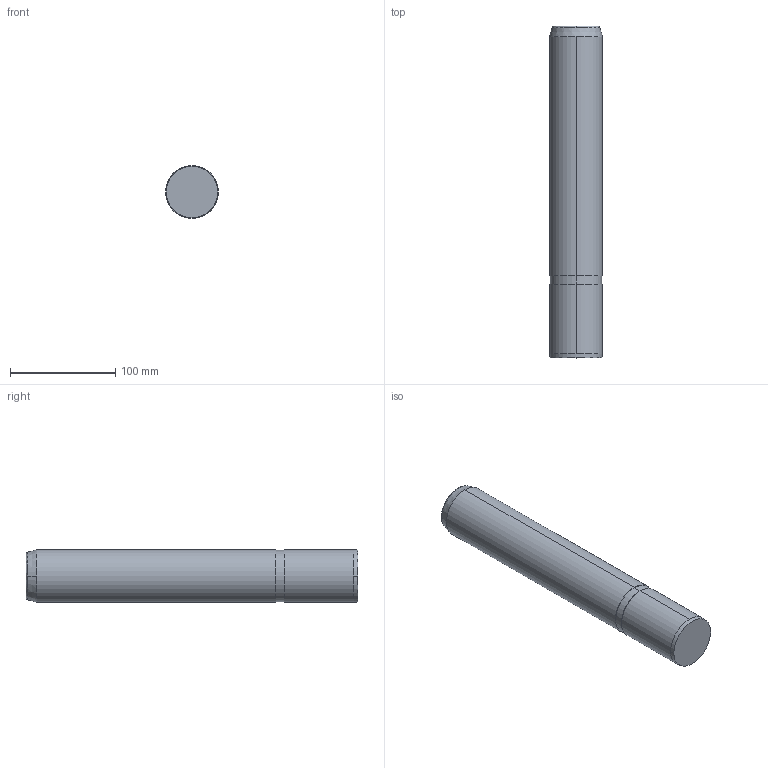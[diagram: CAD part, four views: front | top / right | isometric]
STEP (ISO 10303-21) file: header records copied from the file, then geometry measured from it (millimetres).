
FILE_DESCRIPTION (( 'STEP AP214' ), '1' );
FILE_NAME ('D13.02_50315.step', '2011-12-25T17:10:23', ( 'Dell' ), ( '' ), 'SwSTEP 2.0', 'SolidWorks 2010', '' );
FILE_SCHEMA (( 'AUTOMOTIVE_DESIGN' ));
Length unit declared in the file: millimetre
Products named in the file (1): D13.02_50315
Bounding box: 50 x 315 x 50 mm (x, y, z)
Volume: 615960 mm3; surface area: 52991.9 mm2
Topology: 1 solids, 1 shells, 16 faces, 38 edges, 26 vertices
Faces by surface type: cylinder 6, cone 4, plane 4, bspline 2
Entity records: 780 total; most frequent: CARTESIAN_POINT 363, DIRECTION 88, ORIENTED_EDGE 76, AXIS2_PLACEMENT_3D 39, EDGE_CURVE 38, VERTEX_POINT 26, CIRCLE 24, EDGE_LOOP 18
